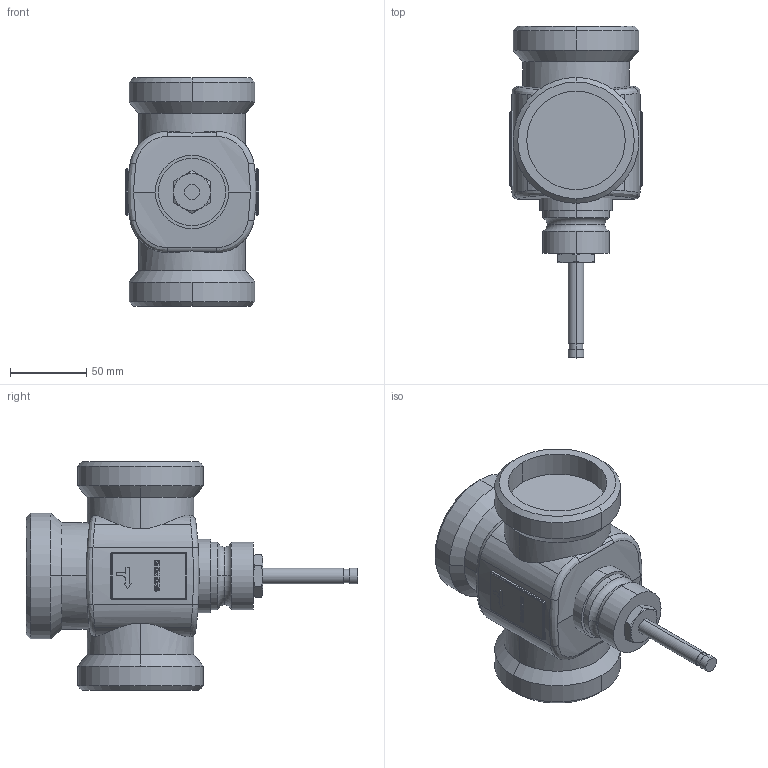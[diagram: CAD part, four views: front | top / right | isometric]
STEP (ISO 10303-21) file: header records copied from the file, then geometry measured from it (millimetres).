
FILE_DESCRIPTION((''),'2;1');
FILE_NAME('000305.dwg.stp','2006-10-23T13:46:19',(''),(''),'Mechanical Desktop 2006','Mechanical Desktop 2006',', , ');
FILE_SCHEMA(('AUTOMOTIVE_DESIGN { 1 2 10303 214 0 1 1 1 }'));
Length unit declared in the file: millimetre
Products named in the file (1): Product
Bounding box: 87.67 x 217.5 x 150 mm (x, y, z)
Volume: 862419.7 mm3; surface area: 108199.5 mm2
Topology: 26 solids, 26 shells, 541 faces, 1411 edges, 918 vertices
Faces by surface type: cylinder 255, plane 205, bspline 61, cone 8, sphere 8, torus 4
Entity records: 18872 total; most frequent: CARTESIAN_POINT 5503, ORIENTED_EDGE 2806, DIRECTION 2775, EDGE_CURVE 1403, AXIS2_PLACEMENT_3D 1000, VERTEX_POINT 918, VECTOR 775, LINE 775
